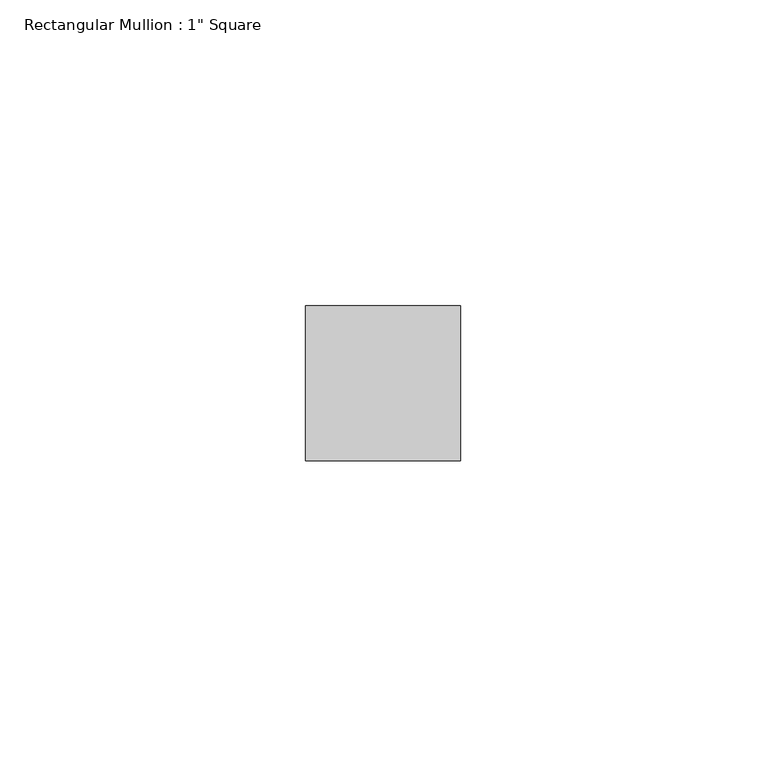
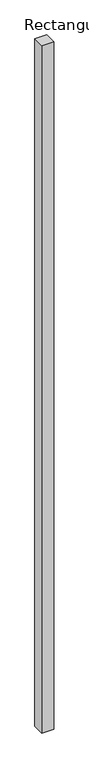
"""IFC4 building model written with IfcOpenShell, lengths in millimetres: member geometry."""

from ifc_helpers import new_model, si_unit, frame, origin, place, context, project, spatial, polyline, outline, extrude, source, transform, mapped, element, save


def member_dcc4074c(model_context):
    return source(origin(), model_context, "Body", "SweptSolid", [
        extrude(outline(polyline([(12.7, 12.7), (12.7, -12.7), (-12.7, -12.7), (-12.7, 12.7), (12.7, 12.7)])), frame((0.0, 0.0, -1546.9944875), z_axis=(0.0, 0.0, 1.0), x_axis=(1.0, 0.0, 0.0)), (0.0, 0.0, 1.0), 1546.9944875),
    ])


if __name__ == "__main__":
    model = new_model("IFC4")
    model_context = context("Model", 3, world=origin())
    ifc_project = project(units=[si_unit("LENGTHUNIT", "METRE", prefix="MILLI")], contexts=[model_context])
    site = spatial("IfcSite", under=ifc_project)
    building = spatial("IfcBuilding", under=site)
    placement = place(None, origin())
    member_shape = member_dcc4074c(model_context)
    element("IfcMember", 1, ObjectType="Rectangular Mullion : 1\" Square", at=placement, inside=building, context=model_context, shape_type="MappedRepresentation", body=[
        mapped(member_shape, transform((0.0, 0.0, 0.0), x_axis=(1.0, 0.0, 0.0), y_axis=(0.0, 1.0, 0.0), z_axis=(0.0, 0.0, 1.0))),
    ])
    save(model, "model.ifc")
